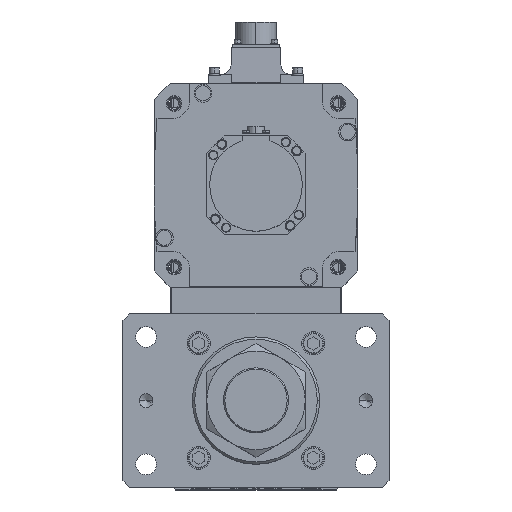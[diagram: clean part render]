
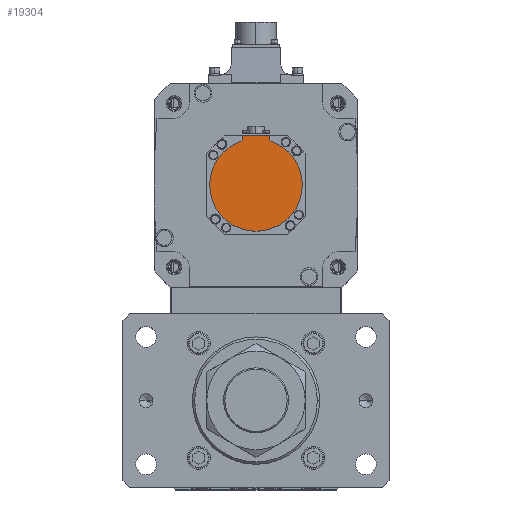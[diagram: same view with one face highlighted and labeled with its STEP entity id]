
A CAD part, top view. The second image highlights one B-rep face of the part: STEP entity #19304.
In plain terms, the highlighted planar face has unit normal (0, 0, 1) as drawn and (0, 0, -1) by its records, which use the part's own axes.
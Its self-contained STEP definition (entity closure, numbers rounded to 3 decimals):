
#423 = EDGE_CURVE ( 'NONE', #9349, #51308, #48823, .T. ) ;
#1109 = CARTESIAN_POINT ( 'NONE',  ( 0., -1.249, -162.5 ) ) ;
#2143 = ORIENTED_EDGE ( 'NONE', *, *, #40899, .F. ) ;
#3892 = CARTESIAN_POINT ( 'NONE',  ( -12., -42.5, -162.5 ) ) ;
#4077 = EDGE_CURVE ( 'NONE', #30792, #13342, #6935, .T. ) ;
#4267 = VERTEX_POINT ( 'NONE', #22543 ) ;
#4809 = DIRECTION ( 'NONE',  ( 0., 0., 1. ) ) ;
#5426 = CARTESIAN_POINT ( 'NONE',  ( -12., -40.329, -162.5 ) ) ;
#6082 = AXIS2_PLACEMENT_3D ( 'NONE', #44120, #19700, #48187 ) ;
#6563 = VECTOR ( 'NONE', #37920, 1000. ) ;
#6935 = CIRCLE ( 'NONE', #6082, 40. ) ;
#7137 = DIRECTION ( 'NONE',  ( -1., 0., 0. ) ) ;
#7606 = CARTESIAN_POINT ( 'NONE',  ( 40., 0., -162.5 ) ) ;
#9349 = VERTEX_POINT ( 'NONE', #3892 ) ;
#10731 = ORIENTED_EDGE ( 'NONE', *, *, #29862, .F. ) ;
#11172 = VECTOR ( 'NONE', #21837, 1000. ) ;
#13342 = VERTEX_POINT ( 'NONE', #7606 ) ;
#13591 = DIRECTION ( 'NONE',  ( 0., 0., 1. ) ) ;
#17022 = PLANE ( 'NONE',  #18224 ) ;
#17220 = AXIS2_PLACEMENT_3D ( 'NONE', #37784, #4809, #21042 ) ;
#18007 = CARTESIAN_POINT ( 'NONE',  ( 0., -42.5, -162.5 ) ) ;
#18224 = AXIS2_PLACEMENT_3D ( 'NONE', #1109, #13591, #49588 ) ;
#19304 = ADVANCED_FACE ( 'NONE', ( #45073 ), #17022, .F. ) ;
#19700 = DIRECTION ( 'NONE',  ( 0., 0., 1. ) ) ;
#20040 = DIRECTION ( 'NONE',  ( 1., 0., 0. ) ) ;
#21042 = DIRECTION ( 'NONE',  ( 1., 0., 0. ) ) ;
#21837 = DIRECTION ( 'NONE',  ( 0., 1., 0. ) ) ;
#22543 = CARTESIAN_POINT ( 'NONE',  ( 12., -42.5, -162.5 ) ) ;
#23782 = CARTESIAN_POINT ( 'NONE',  ( 0., 0., -162.5 ) ) ;
#27205 = CARTESIAN_POINT ( 'NONE',  ( 12., -38.158, -162.5 ) ) ;
#27436 = CARTESIAN_POINT ( 'NONE',  ( -40., 0., -162.5 ) ) ;
#28551 = CARTESIAN_POINT ( 'NONE',  ( -12., -38.158, -162.5 ) ) ;
#28697 = CIRCLE ( 'NONE', #45587, 40. ) ;
#29535 = CARTESIAN_POINT ( 'NONE',  ( 12., -1.249, -162.5 ) ) ;
#29862 = EDGE_CURVE ( 'NONE', #48316, #51308, #28697, .T. ) ;
#30792 = VERTEX_POINT ( 'NONE', #27205 ) ;
#32700 = LINE ( 'NONE', #29535, #6563 ) ;
#35449 = ORIENTED_EDGE ( 'NONE', *, *, #423, .T. ) ;
#36235 = DIRECTION ( 'NONE',  ( 0., 0., 1. ) ) ;
#36600 = ORIENTED_EDGE ( 'NONE', *, *, #47931, .F. ) ;
#37416 = ORIENTED_EDGE ( 'NONE', *, *, #51761, .T. ) ;
#37784 = CARTESIAN_POINT ( 'NONE',  ( 0., 0., -162.5 ) ) ;
#37920 = DIRECTION ( 'NONE',  ( 0., 1., 0. ) ) ;
#40899 = EDGE_CURVE ( 'NONE', #4267, #30792, #32700, .T. ) ;
#40941 = ORIENTED_EDGE ( 'NONE', *, *, #4077, .F. ) ;
#42472 = CIRCLE ( 'NONE', #17220, 40. ) ;
#44120 = CARTESIAN_POINT ( 'NONE',  ( 0., 0., -162.5 ) ) ;
#45073 = FACE_OUTER_BOUND ( 'NONE', #51334, .T. ) ;
#45517 = VECTOR ( 'NONE', #7137, 1000. ) ;
#45587 = AXIS2_PLACEMENT_3D ( 'NONE', #23782, #36235, #20040 ) ;
#47931 = EDGE_CURVE ( 'NONE', #13342, #48316, #42472, .T. ) ;
#48187 = DIRECTION ( 'NONE',  ( 1., 0., 0. ) ) ;
#48316 = VERTEX_POINT ( 'NONE', #27436 ) ;
#48823 = LINE ( 'NONE', #5426, #11172 ) ;
#49588 = DIRECTION ( 'NONE',  ( 1., 0., 0. ) ) ;
#50603 = LINE ( 'NONE', #18007, #45517 ) ;
#51308 = VERTEX_POINT ( 'NONE', #28551 ) ;
#51334 = EDGE_LOOP ( 'NONE', ( #35449, #10731, #36600, #40941, #2143, #37416 ) ) ;
#51761 = EDGE_CURVE ( 'NONE', #4267, #9349, #50603, .T. ) ;
